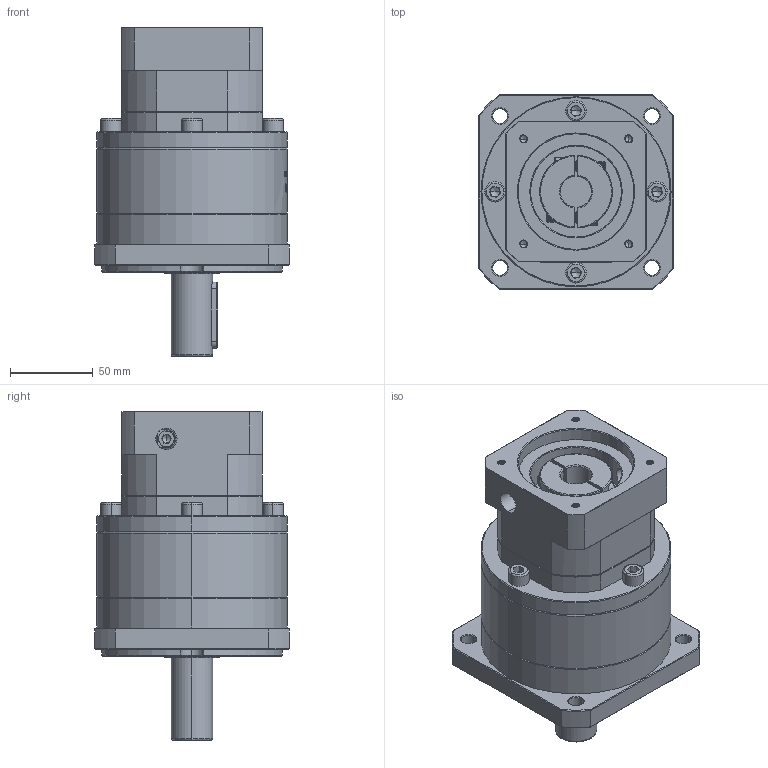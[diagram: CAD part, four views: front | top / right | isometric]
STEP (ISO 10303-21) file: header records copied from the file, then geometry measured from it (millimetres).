
FILE_DESCRIPTION (( 'STEP AP214' ), '1' );
FILE_NAME ('ZF120A-D25-L2-19-70-90-M5.step', '2023-03-07T15:00:31', ( '' ), ( 'Microsoft' ), 'SwSTEP 2.0', 'SolidWorks 2016', '' );
FILE_SCHEMA (( 'AUTOMOTIVE_DESIGN' ));
Length unit declared in the file: millimetre
Products named in the file (1): ZF120A-D25-L2-19-70-90-M5
Bounding box: 118 x 118 x 199 mm (x, y, z)
Volume: 1276849.7 mm3; surface area: 124985.9 mm2
Topology: 5 solids, 5 shells, 1906 faces, 5026 edges, 3209 vertices
Faces by surface type: plane 877, cylinder 396, bspline 336, cone 297
Entity records: 104245 total; most frequent: CARTESIAN_POINT 40079, ORIENTED_EDGE 9992, DIRECTION 7601, EDGE_CURVE 4996, VERTEX_POINT 3209, VECTOR 2731, LINE 2731, AXIS2_PLACEMENT_3D 2435
